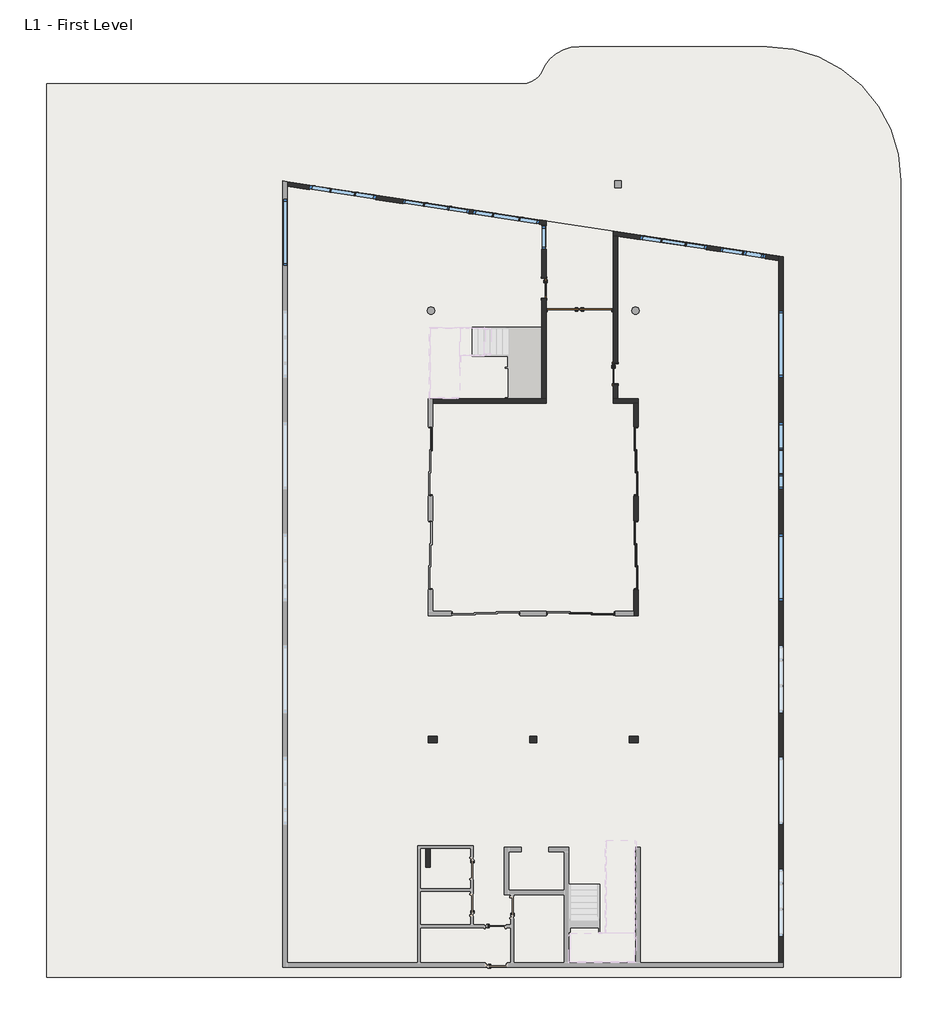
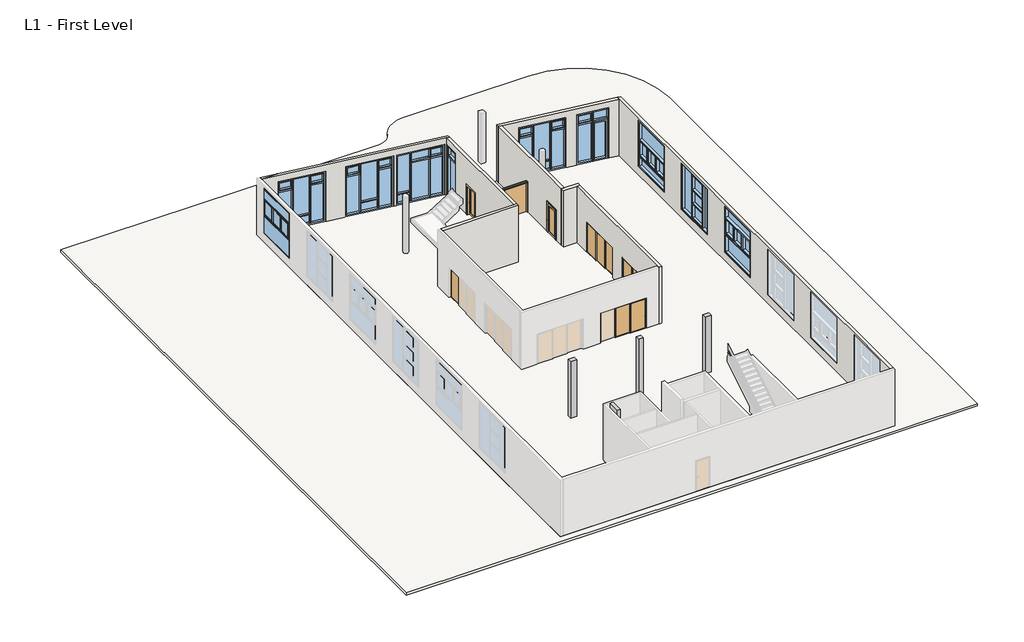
# One storey, part 2 of 4: 15 doors, 10 windows, 9 walls, 4 columns, 2 slabs.
"""IFC4 building model written with IfcOpenShell, lengths in millimetres."""

from ifc_helpers import new_model, si_unit, point, frame, frame_2d, origin, origin_with_axes, place, context, project, spatial, polyline, circle_curve, trimmed, segment, composite_curve, outline, extrude, faceted_brep, transform, mapped, element, save
from components import door_7ad24d90, door_23af0c9a, door_cf1101c9, door_0c16035c, door_c90a9d60, panel_full_glazing_aluminum_5881cc99, panel_full_glazing_aluminum_9a99f02d, window_frontal_door_front_window_7080e63b, window_frontal_vertical_lateral_windows_1aae0640, window_frontal_vertical_option2_front_window_b7f4d29d, window_frontal_vertical_option2_front_window_3d2c31a8, window_frontal_vertical_option3_lateral_windows_03f2e7b4, window_lateral_horizontal_lateral_windows_7aeb5992, window_lateral_horizontal_option2_lateral_windows_3115a414, window_lateral_vertical_lateral_windows_7704e6dc

model = new_model("IFC4")

# Units and contexts
model_context = context("Model", 3, world=origin())
ifc_project = project(units=[si_unit("LENGTHUNIT", "METRE", prefix="MILLI")], contexts=[model_context])

# Site, building, storey
site = spatial("IfcSite", under=ifc_project)
building = spatial("IfcBuilding", under=site)
storey = spatial("IfcBuildingStorey", under=building, Name="L1 - First Level", Elevation=152.4)

# Columns
placement = place(None, origin())
element("IfcColumn", 1, ObjectType="Concrete-Rectangular-Column : 12 x 12", at=placement, inside=storey, context=model_context, shape_type="SweptSolid", body=[
    extrude(outline(polyline([(14630.4, 10972.6001433), (14630.4, 10667.8001433), (14325.6, 10667.8001433), (14325.6, 10972.6001433), (14630.4, 10972.6001433)])), frame((0.0, 0.0, 152.4), z_axis=(0.0, 0.0, 1.0), x_axis=(1.0, 0.0, 0.0)), (0.0, 0.0, 1.0), 4064.0),
])
element("IfcColumn", 2, ObjectType="Concrete-Rectangular-Column : 12 x 16", at=placement, inside=storey, context=model_context, shape_type="SweptSolid", body=[
    extrude(outline(polyline([(9702.5746315, 10972.8), (10108.9746315, 10972.8), (10108.9746315, 10668.0), (9702.5746315, 10668.0), (9702.5746315, 10972.8)])), frame((0.0, 0.0, 152.4), z_axis=(0.0, 0.0, 1.0), x_axis=(1.0, 0.0, 0.0)), (0.0, 0.0, 1.0), 4064.0),
])
element("IfcColumn", 3, ObjectType="Concrete-Rectangular-Column : 12 x 16", at=placement, inside=storey, context=model_context, shape_type="SweptSolid", body=[
    extrude(outline(polyline([(18846.7999999, 10972.8), (19253.1999999, 10972.8), (19253.1999999, 10668.0), (18846.7999999, 10668.0), (18846.7999999, 10972.8)])), frame((0.0, 0.0, 152.4), z_axis=(0.0, 0.0, 1.0), x_axis=(1.0, 0.0, 0.0)), (0.0, 0.0, 1.0), 4064.0),
])
element("IfcColumn", 4, ObjectType="Concrete-Rectangular-Column : 36 x 8", at=placement, inside=storey, context=model_context, shape_type="SweptSolid", body=[
    extrude(outline(polyline([(9601.1999999, 5919.4792863), (9804.3999999, 5919.4792863), (9804.3999999, 5005.0792863), (9601.1999999, 5005.0792863), (9601.1999999, 5919.4792863)])), frame((0.0, 0.0, 152.4), z_axis=(0.0, 0.0, 1.0), x_axis=(1.0, 0.0, 0.0)), (0.0, 0.0, 1.0), 4064.0),
])

# Doors
door_shape = door_7ad24d90(model_context)
element("IfcDoor", 5, ObjectType="BP_DOOR_SP_Sliding_AluminumFrame-MultiPanels : 120\" x 84\" - 3 Panels", at=placement, inside=storey, context=model_context, shape_type="MappedRepresentation", body=[
    mapped(door_shape, transform((19151.5999911, 23469.5998757, 152.4), x_axis=(0.0, -1.0, 0.0), y_axis=(1.0, 0.0, 0.0), z_axis=(0.0, 0.0, 1.0))),
])
element("IfcDoor", 6, ObjectType="BP_DOOR_SP_Sliding_AluminumFrame-MultiPanels : 120\" x 84\" - 3 Panels", at=placement, inside=storey, context=model_context, shape_type="MappedRepresentation", body=[
    mapped(door_shape, transform((19151.5999911, 19202.3998844, 152.4), x_axis=(0.0, -1.0, 0.0), y_axis=(1.0, 0.0, 0.0), z_axis=(0.0, 0.0, 1.0))),
])
door_2_shape = door_23af0c9a(model_context)
element("IfcDoor", 7, ObjectType="BP_DOOR_SP_Sliding_AluminumFrame-MultiPanels : 120\" x 84\" - 3 Panels", at=placement, inside=storey, context=model_context, shape_type="MappedRepresentation", body=[
    mapped(door_2_shape, transform((16636.9999911, 16560.7998844, 152.4), x_axis=(1.0, 0.0, 0.0), y_axis=(0.0, 1.0, 0.0), z_axis=(0.0, 0.0, 1.0))),
])
door_3_shape = door_cf1101c9(model_context)
element("IfcDoor", 8, ObjectType="BP_DOOR_SteelFrame-Double-OffsetPivot : 72\" x 84\" - Solid 2", at=placement, inside=storey, context=model_context, shape_type="MappedRepresentation", body=[
    mapped(door_3_shape, transform((16579.8499995, 30340.2998762, 152.4), x_axis=(1.0, 0.0, 0.0), y_axis=(0.0, 1.0, 0.0), z_axis=(0.0, 0.0, 1.0))),
])
door_4_shape = door_0c16035c(model_context)
element("IfcDoor", 9, ObjectType="BP_DOOR_WoodFrame-OffsetPivot : 36\" x 84\" - Glazing Full", at=placement, inside=storey, context=model_context, shape_type="MappedRepresentation", body=[
    mapped(door_4_shape, transform((14960.6000041, 31337.2498757, 152.4), x_axis=(0.0, -1.0, 0.0), y_axis=(1.0, 0.0, 0.0), z_axis=(0.0, 0.0, 1.0))),
])
door_5_shape = door_c90a9d60(model_context)
element("IfcDoor", 10, ObjectType="BP_DOOR_WoodFrame-OffsetPivot : 36\" x 84\" - Glazing Full", at=placement, inside=storey, context=model_context, shape_type="MappedRepresentation", body=[
    mapped(door_5_shape, transform((18211.7999995, 27451.0498757, 152.4), x_axis=(0.0, -1.0, 0.0), y_axis=(1.0, 0.0, 0.0), z_axis=(0.0, 0.0, 1.0))),
])
panel_full_glazing_aluminum_shape = panel_full_glazing_aluminum_5881cc99(model_context)
element("IfcDoor", 11, ObjectType="BP_DR_SP_Panel-Single-Glass : Panel - Full Glazing Aluminum", at=placement, inside=storey, context=model_context, shape_type="MappedRepresentation", body=[
    mapped(panel_full_glazing_aluminum_shape, transform((19100.7999911, 24468.6665424, 152.4), x_axis=(0.0, -1.0, 0.0), y_axis=(1.0, 0.0, 0.0), z_axis=(0.0, 0.0, 1.0))),
])
element("IfcDoor", 12, ObjectType="BP_DR_SP_Panel-Single-Glass : Panel - Full Glazing Aluminum", at=placement, inside=storey, context=model_context, shape_type="MappedRepresentation", body=[
    mapped(panel_full_glazing_aluminum_shape, transform((19151.5999911, 23469.5998757, 152.4), x_axis=(0.0, -1.0, 0.0), y_axis=(1.0, 0.0, 0.0), z_axis=(0.0, 0.0, 1.0))),
])
element("IfcDoor", 13, ObjectType="BP_DR_SP_Panel-Single-Glass : Panel - Full Glazing Aluminum", at=placement, inside=storey, context=model_context, shape_type="MappedRepresentation", body=[
    mapped(panel_full_glazing_aluminum_shape, transform((19202.3999911, 22470.533209, 152.4), x_axis=(0.0, -1.0, 0.0), y_axis=(1.0, 0.0, 0.0), z_axis=(0.0, 0.0, 1.0))),
])
element("IfcDoor", 14, ObjectType="BP_DR_SP_Panel-Single-Glass : Panel - Full Glazing Aluminum", at=placement, inside=storey, context=model_context, shape_type="MappedRepresentation", body=[
    mapped(panel_full_glazing_aluminum_shape, transform((19100.7999911, 20201.4665511, 152.4), x_axis=(0.0, -1.0, 0.0), y_axis=(1.0, 0.0, 0.0), z_axis=(0.0, 0.0, 1.0))),
])
element("IfcDoor", 15, ObjectType="BP_DR_SP_Panel-Single-Glass : Panel - Full Glazing Aluminum", at=placement, inside=storey, context=model_context, shape_type="MappedRepresentation", body=[
    mapped(panel_full_glazing_aluminum_shape, transform((19151.5999911, 19202.3998844, 152.4), x_axis=(0.0, -1.0, 0.0), y_axis=(1.0, 0.0, 0.0), z_axis=(0.0, 0.0, 1.0))),
])
element("IfcDoor", 16, ObjectType="BP_DR_SP_Panel-Single-Glass : Panel - Full Glazing Aluminum", at=placement, inside=storey, context=model_context, shape_type="MappedRepresentation", body=[
    mapped(panel_full_glazing_aluminum_shape, transform((19202.3999911, 18203.3332178, 152.4), x_axis=(0.0, -1.0, 0.0), y_axis=(1.0, 0.0, 0.0), z_axis=(0.0, 0.0, 1.0))),
])
panel_full_glazing_aluminum_2_shape = panel_full_glazing_aluminum_9a99f02d(model_context)
element("IfcDoor", 17, ObjectType="BP_DR_SP_Panel-Single-Glass : Panel - Full Glazing Aluminum", at=placement, inside=storey, context=model_context, shape_type="MappedRepresentation", body=[
    mapped(panel_full_glazing_aluminum_2_shape, transform((9855.2000088, 24468.6665424, 152.4), x_axis=(0.0, -1.0, 0.0), y_axis=(1.0, 0.0, 0.0), z_axis=(0.0, 0.0, 1.0))),
])
element("IfcDoor", 18, ObjectType="BP_DR_SP_Panel-Single-Glass : Panel - Full Glazing Aluminum", at=placement, inside=storey, context=model_context, shape_type="MappedRepresentation", body=[
    mapped(panel_full_glazing_aluminum_2_shape, transform((16636.9999911, 16560.7998844, 152.4), x_axis=(1.0, 0.0, 0.0), y_axis=(0.0, 1.0, 0.0), z_axis=(0.0, 0.0, 1.0))),
])
element("IfcDoor", 19, ObjectType="BP_DR_SP_Panel-Single-Glass : Panel - Full Glazing Aluminum", at=placement, inside=storey, context=model_context, shape_type="MappedRepresentation", body=[
    mapped(panel_full_glazing_aluminum_2_shape, transform((17636.0666578, 16509.9998844, 152.4), x_axis=(1.0, 0.0, 0.0), y_axis=(0.0, 1.0, 0.0), z_axis=(0.0, 0.0, 1.0))),
])

# Slabs
element("IfcSlab", 20, ObjectType="Floor 6\"", at=placement, inside=storey, context=model_context, shape_type="SweptSolid", body=[
    extrude(outline(polyline([(3098.8, 36220.3999999), (25857.2, 32765.9999999), (25857.2, 457.2), (3098.8, 457.2), (3098.8, 36220.3999999)])), origin_with_axes(), (0.0, 0.0, 1.0), 152.4),
])
element("IfcSlab", 21, ObjectType="Site 6\"", at=placement, inside=storey, context=model_context, shape_type="SweptSolid", body=[
    extrude(outline(composite_curve([segment(polyline([(-7652.8728973, 0.0), (-7652.8728973, 40651.8603754), (13987.9271027, 40651.8603754)]), True, "CONTINUOUS"), segment(trimmed(circle_curve(frame_2d((13987.9271027, 41685.8304707)), 1033.9700953), [point((13987.9271027, 40651.8603754))], [point((14871.0112112, 41148.0046483))], True, "CARTESIAN"), True, "CONTINUOUS"), segment(trimmed(circle_curve(frame_2d((16577.0766626, 40515.4877633)), 1819.5430564), [point((14871.0112112, 41148.0046483))], [point((16577.0766626, 42335.0308197))], False, "CARTESIAN"), True, "CONTINUOUS"), segment(polyline([(16577.0766626, 42335.0308197), (25107.3998255, 42335.0308197)]), True, "CONTINUOUS"), segment(trimmed(circle_curve(frame_2d((25107.3998255, 36239.0308197)), 6096.0), [point((25107.3998255, 42335.0308197))], [point((31203.3998255, 36239.0308197))], False, "CARTESIAN"), True, "CONTINUOUS"), segment(polyline([(31203.3998255, 36239.0308197), (31203.3998255, 0.0), (-7652.8728973, 0.0)]), True, "CONTINUOUS")], self_intersect=False), holes=[polyline([(3098.8, 36220.3999999), (3098.8, 457.2), (25857.2, 457.2), (25857.2, 32765.9999999), (3098.8, 36220.3999999)])]), origin_with_axes(), (0.0, 0.0, 1.0), 152.4),
])

# Walls
element("IfcWall", 22, ObjectType="Project Wall", at=placement, inside=storey, context=model_context, shape_type="Brep", body=[
    faceted_brep([(25857.2, 660.4, 152.4), (25857.2, 32765.9999999, 152.4), (25857.2, 32765.9999999, 3784.6), (25857.2, 32765.9999999, 4216.4), (25857.2, 660.4, 4216.4), (25857.2, 30327.6, 4064.0), (25857.2, 30327.6, 762.0), (25857.2, 27279.6, 762.0), (25857.2, 27279.6, 4064.0), (25857.2, 20167.6, 4064.0), (25857.2, 20167.6, 762.0), (25857.2, 17119.6, 762.0), (25857.2, 17119.6, 4064.0), (25857.2, 15087.6, 4064.0), (25857.2, 15087.6, 762.0), (25857.2, 12039.6, 762.0), (25857.2, 12039.6, 4064.0), (25857.2, 10007.6, 4064.0), (25857.2, 10007.6, 762.0), (25857.2, 6959.6, 762.0), (25857.2, 6959.6, 4064.0), (25857.2, 4927.6, 4064.0), (25857.2, 4927.6, 762.0), (25857.2, 1879.6, 762.0), (25857.2, 1879.6, 4064.0), (25857.2, 22199.6, 762.0), (25857.2, 22199.6, 4064.0), (25857.2, 25247.6, 4064.0), (25857.2, 25247.6, 762.0), (25654.0, 32796.8428571, 152.4), (25654.0, 32591.3154335, 152.4), (25654.0, 660.4, 152.4), (25654.0, 660.4, 4216.4), (25654.0, 32591.3154335, 4216.4), (25654.0, 32796.8428571, 4216.4), (25654.0, 32796.8428571, 3784.6), (25654.0, 30327.6, 762.0), (25654.0, 30327.6, 4064.0), (25654.0, 27279.6, 4064.0), (25654.0, 27279.6, 762.0), (25654.0, 20167.6, 762.0), (25654.0, 20167.6, 4064.0), (25654.0, 17119.6, 4064.0), (25654.0, 17119.6, 762.0), (25654.0, 15087.6, 762.0), (25654.0, 15087.6, 4064.0), (25654.0, 12039.6, 4064.0), (25654.0, 12039.6, 762.0), (25654.0, 10007.6, 762.0), (25654.0, 10007.6, 4064.0), (25654.0, 6959.6, 4064.0), (25654.0, 6959.6, 762.0), (25654.0, 4927.6, 762.0), (25654.0, 4927.6, 4064.0), (25654.0, 1879.6, 4064.0), (25654.0, 1879.6, 762.0), (25654.0, 22199.6, 4064.0), (25654.0, 22199.6, 762.0), (25654.0, 25247.6, 762.0), (25654.0, 25247.6, 4064.0)], [[[0, 1, 2, 3, 4], [5, 6, 7, 8], [9, 10, 11, 12], [13, 14, 15, 16], [17, 18, 19, 20], [21, 22, 23, 24], [25, 26, 27, 28]], [[29, 30, 31, 32, 33, 34, 35], [36, 37, 38, 39], [40, 41, 42, 43], [44, 45, 46, 47], [48, 49, 50, 51], [52, 53, 54, 55], [56, 57, 58, 59]], [[1, 0, 31, 30, 29]], [[4, 3, 34, 33, 32]], [[0, 4, 32, 31]], [[1, 29, 35, 34, 3, 2]], [[5, 37, 36, 6]], [[6, 36, 39, 7]], [[7, 39, 38, 8]], [[40, 10, 9, 41]], [[10, 40, 43, 11]], [[11, 43, 42, 12]], [[44, 14, 13, 45]], [[14, 44, 47, 15]], [[15, 47, 46, 16]], [[48, 18, 17, 49]], [[18, 48, 51, 19]], [[19, 51, 50, 20]], [[52, 22, 21, 53]], [[22, 52, 55, 23]], [[23, 55, 54, 24]], [[25, 57, 56, 26]], [[57, 25, 28, 58]], [[58, 28, 27, 59]], [[53, 21, 24, 54]], [[49, 17, 20, 50]], [[45, 13, 16, 46]], [[41, 9, 12, 42]], [[26, 56, 59, 27]], [[37, 5, 8, 38]]]),
])
element("IfcWall", 23, ObjectType="Project Wall", at=placement, inside=storey, context=model_context, shape_type="Brep", body=[
    faceted_brep([(25654.0, 32796.8428571, 4216.4), (25654.0, 32796.8428571, 152.4), (25070.816951, 32885.3617127, 152.4), (25070.816951, 32885.3617127, 3784.6), (23011.6028925, 33197.9209895, 3784.6), (23011.6028925, 33197.9209895, 152.4), (22383.7937283, 33293.2134519, 152.4), (22383.7937283, 33293.2134519, 3784.6), (19370.3097404, 33750.6172715, 3784.6), (19370.3097404, 33750.6172715, 152.4), (18110.1999995, 33941.8839286, 152.4), (18110.1999995, 33941.8839286, 4216.4), (25654.0, 32591.3154335, 152.4), (25654.0, 32591.3154335, 4216.4), (18313.3999995, 33705.5136479, 4216.4), (18110.1999995, 33736.356505, 4216.4), (18110.1999995, 33736.356505, 152.4), (18313.3999995, 33705.5136479, 152.4), (19339.8161524, 33549.718339, 152.4), (19339.8161524, 33549.718339, 3784.6), (22353.3001404, 33092.3145194, 3784.6), (22353.3001404, 33092.3145194, 152.4), (22981.1093045, 32997.0220569, 152.4), (22981.1093045, 32997.0220569, 3784.6), (25040.323363, 32684.4627802, 3784.6), (25040.323363, 32684.4627802, 152.4)], [[[0, 1, 2, 3, 4, 5, 6, 7, 8, 9, 10, 11]], [[12, 13, 14, 15, 16, 17, 18, 19, 20, 21, 22, 23, 24, 25]], [[1, 12, 25, 2]], [[16, 10, 9, 18, 17]], [[21, 6, 5, 22]], [[12, 1, 0, 13]], [[0, 11, 15, 14, 13]], [[11, 10, 16, 15]], [[21, 20, 7, 6]], [[19, 18, 9, 8]], [[20, 19, 8, 7]], [[24, 3, 2, 25]], [[4, 23, 22, 5]], [[3, 24, 23, 4]]]),
])
element("IfcWall", 24, ObjectType="Project Wall", at=placement, inside=storey, context=model_context, shape_type="Brep", body=[
    faceted_brep([(18110.1999995, 26111.1998757, 152.4), (19050.0, 26111.1998757, 152.4), (19253.2, 26111.1998757, 152.4), (19253.2, 26111.1998757, 4216.4), (19050.0, 26111.1998757, 4216.4), (18110.1999995, 26111.1998757, 4216.4), (18110.1999995, 26314.3998757, 152.4), (18110.1999995, 26314.3998757, 4216.4), (18313.3999995, 26314.3998757, 4216.4), (19253.2, 26314.3998757, 4216.4), (19253.2, 26314.3998757, 152.4), (18313.3999995, 26314.3998757, 152.4)], [[[0, 1, 2, 3, 4, 5]], [[6, 7, 8, 9, 10, 11]], [[2, 1, 0, 6, 11, 10]], [[5, 4, 3, 9, 8, 7]], [[3, 2, 10, 9]], [[0, 5, 7, 6]]]),
])
element("IfcWall", 25, ObjectType="Project Wall", at=placement, inside=storey, context=model_context, shape_type="Brep", body=[
    faceted_brep([(19050.0, 16459.1998844, 4216.4), (19050.0, 16662.3998844, 4216.4), (19050.0, 26111.1998757, 4216.4), (19050.0, 26111.1998757, 152.4), (19050.0, 25044.3998757, 152.4), (19050.0, 25044.3998757, 2336.8), (19050.0, 21894.7998757, 2336.8), (19050.0, 21894.7998757, 152.4), (19050.0, 20777.1998844, 152.4), (19050.0, 20777.1998844, 2336.8), (19050.0, 17627.5998844, 2336.8), (19050.0, 17627.5998844, 152.4), (19050.0, 16662.3998844, 152.4), (19050.0, 16459.1998844, 152.4), (19253.2, 26111.1998757, 4216.4), (19253.2, 16459.1998844, 4216.4), (19253.2, 16459.1998844, 152.4), (19253.2, 17627.5998844, 152.4), (19253.2, 17627.5998844, 2336.8), (19253.2, 20777.1998844, 2336.8), (19253.2, 20777.1998844, 152.4), (19253.2, 21894.7998757, 152.4), (19253.2, 21894.7998757, 2336.8), (19253.2, 25044.3998757, 2336.8), (19253.2, 25044.3998757, 152.4), (19253.2, 26111.1998757, 152.4)], [[[0, 1, 2, 3, 4, 5, 6, 7, 8, 9, 10, 11, 12, 13]], [[14, 15, 16, 17, 18, 19, 20, 21, 22, 23, 24, 25]], [[3, 25, 24, 4]], [[16, 13, 12, 11, 17]], [[20, 8, 7, 21]], [[2, 1, 0, 15, 14]], [[3, 2, 14, 25]], [[0, 13, 16, 15]], [[10, 18, 17, 11]], [[18, 10, 9, 19]], [[19, 9, 8, 20]], [[6, 22, 21, 7]], [[22, 6, 5, 23]], [[23, 5, 4, 24]]]),
])
element("IfcWall", 26, ObjectType="Project Wall", at=placement, inside=storey, context=model_context, shape_type="Brep", body=[
    faceted_brep([(9906.0000088, 26111.1998757, 152.4), (15062.2000041, 26111.1998757, 152.4), (15062.2000041, 26111.1998757, 4216.4), (9906.0000088, 26111.1998757, 4216.4), (9906.0000088, 26314.3998757, 152.4), (9906.0000088, 26314.3998757, 4216.4), (14859.0000041, 26314.3998757, 4216.4), (15062.2000041, 26314.3998757, 4216.4), (15062.2000041, 26314.3998757, 152.4), (14859.0000041, 26314.3998757, 152.4)], [[[0, 1, 2, 3]], [[4, 5, 6, 7, 8, 9]], [[1, 0, 4, 9, 8]], [[3, 2, 7, 6, 5]], [[0, 3, 5, 4]], [[2, 1, 8, 7]]]),
])
element("IfcWall", 27, ObjectType="Project Wall", at=placement, inside=storey, context=model_context, shape_type="Brep", body=[
    faceted_brep([(11761.3794328, 34905.5441932, 152.4), (11585.5928669, 34932.2260826, 152.4), (11585.5928669, 34932.2260826, 3784.6), (8572.1088789, 35389.6299023, 3784.6), (8572.1088789, 35389.6299023, 152.4), (7341.6029171, 35576.4031286, 152.4), (7341.6029171, 35576.4031286, 3784.6), (4437.5294117, 36017.2, 3784.6), (4328.1189292, 36033.8069482, 3784.6), (4328.1189292, 36033.8069482, 152.4), (3302.0, 36189.5571428, 152.4), (3302.0, 36189.5571428, 4216.4), (4437.5294118, 36017.1999999, 4216.4), (15062.2000041, 34404.526785, 4216.4), (15062.2000041, 34404.526785, 152.4), (14774.8634208, 34448.1403736, 152.4), (14774.8634208, 34448.1403736, 3784.6), (11761.3794328, 34905.5441932, 3784.6), (11555.0992789, 34731.3271501, 3784.6), (11555.0992789, 34731.3271501, 152.4), (11730.8858449, 34704.6452606, 152.4), (11730.8858449, 34704.6452606, 3784.6), (14744.3698329, 34247.241441, 3784.6), (14744.3698329, 34247.241441, 152.4), (14859.0000041, 34229.8422186, 152.4), (15062.2000041, 34198.9993615, 152.4), (15062.2000041, 34198.9993615, 4216.4), (14859.0000041, 34229.8422186, 4216.4), (3302.0, 35984.0297192, 4216.4), (3302.0, 35984.0297192, 152.4), (4297.6253412, 35832.9080157, 152.4), (4297.6253412, 35832.9080157, 3784.6), (7311.1093292, 35375.5041961, 3784.6), (7311.1093292, 35375.5041961, 152.4), (8541.6152909, 35188.7309697, 152.4), (8541.6152909, 35188.7309697, 3784.6), (3302.0, 36017.1999999, 4216.4)], [[[0, 1, 2, 3, 4, 5, 6, 7, 8, 9, 10, 11, 12, 13, 14, 15, 16, 17]], [[18, 19, 20, 21, 22, 23, 24, 25, 26, 27, 28, 29, 30, 31, 32, 33, 34, 35]], [[14, 25, 24, 23, 15]], [[30, 29, 10, 9]], [[34, 33, 5, 4]], [[20, 19, 1, 0]], [[10, 29, 28, 36, 11]], [[12, 11, 36]], [[13, 12, 36, 28, 27, 26]], [[14, 13, 26, 25]], [[17, 21, 20, 0]], [[22, 16, 15, 23]], [[21, 17, 16, 22]], [[9, 8, 31, 30]], [[6, 5, 33, 32]], [[8, 7, 6, 32, 31]], [[4, 3, 35, 34]], [[2, 1, 19, 18]], [[3, 2, 18, 35]]]),
])
element("IfcWall", 28, ObjectType="Project Wall", at=placement, inside=storey, context=model_context, shape_type="Brep", body=[
    faceted_brep([(18313.3999995, 33705.5136479, 152.4), (18313.3999995, 33705.5136479, 4216.4), (18313.3999995, 26314.3998757, 4216.4), (18313.3999995, 26314.3998757, 152.4), (18313.3999995, 26968.4498757, 152.4), (18313.3999995, 26968.4498757, 2311.4), (18313.3999995, 27933.6498757, 2311.4), (18313.3999995, 27933.6498757, 152.4), (18110.1999995, 33736.356505, 4216.4), (18110.1999995, 33736.356505, 152.4), (18110.1999995, 30403.7998762, 152.4), (18110.1999995, 30276.7998762, 152.4), (18110.1999995, 27933.6498757, 152.4), (18110.1999995, 27933.6498757, 2311.4), (18110.1999995, 26968.4498757, 2311.4), (18110.1999995, 26968.4498757, 152.4), (18110.1999995, 26314.3998757, 152.4), (18110.1999995, 26314.3998757, 4216.4)], [[[0, 1, 2, 3, 4, 5, 6, 7]], [[8, 9, 10, 11, 12, 13, 14, 15, 16, 17]], [[9, 0, 7, 12, 11, 10]], [[3, 16, 15, 4]], [[1, 0, 9, 8]], [[3, 2, 17, 16]], [[14, 5, 4, 15]], [[5, 14, 13, 6]], [[6, 13, 12, 7]], [[2, 1, 8, 17]]]),
])
element("IfcWall", 29, ObjectType="Project Wall", at=placement, inside=storey, context=model_context, shape_type="Brep", body=[
    faceted_brep([(15062.2000041, 34198.9993615, 152.4), (15062.2000041, 34198.9993615, 4216.4), (15062.2000041, 26314.3998757, 4216.4), (15062.2000041, 26314.3998757, 152.4), (15062.2000041, 30276.7998762, 152.4), (15062.2000041, 30403.7998762, 152.4), (15062.2000041, 30854.6498757, 152.4), (15062.2000041, 30854.6498757, 2311.4), (15062.2000041, 31819.8498757, 2311.4), (15062.2000041, 31819.8498757, 152.4), (15062.2000041, 33115.2498757, 152.4), (15062.2000041, 33115.2498757, 3784.6), (15062.2000041, 34173.9218757, 3784.6), (15062.2000041, 34173.9218757, 152.4), (14859.0000041, 34229.8422186, 4216.4), (14859.0000041, 34229.8422186, 152.4), (14859.0000041, 34173.9218757, 152.4), (14859.0000041, 34173.9218757, 3784.6), (14859.0000041, 33115.2498757, 3784.6), (14859.0000041, 33115.2498757, 152.4), (14859.0000041, 31819.8498757, 152.4), (14859.0000041, 31819.8498757, 2311.4), (14859.0000041, 30854.6498757, 2311.4), (14859.0000041, 30854.6498757, 152.4), (14859.0000041, 26314.3998757, 152.4), (14859.0000041, 26314.3998757, 4216.4)], [[[0, 1, 2, 3, 4, 5, 6, 7, 8, 9, 10, 11, 12, 13]], [[14, 15, 16, 17, 18, 19, 20, 21, 22, 23, 24, 25]], [[15, 0, 13, 16]], [[3, 24, 23, 6, 5, 4]], [[9, 20, 19, 10]], [[1, 0, 15, 14]], [[3, 2, 25, 24]], [[22, 7, 6, 23]], [[7, 22, 21, 8]], [[8, 21, 20, 9]], [[2, 1, 14, 25]], [[18, 11, 10, 19]], [[12, 17, 16, 13]], [[11, 18, 17, 12]]]),
])
element("IfcWall", 30, ObjectType="Project Wall 5\"", at=placement, inside=storey, context=model_context, shape_type="SweptSolid", body=[
    extrude(outline(polyline([(2334.8, 18110.1999995), (2334.8, 15062.2000041), (152.4, 15062.2000041), (152.4, 15093.9499995), (2298.7, 15093.9499995), (2298.7, 18065.7499995), (152.4, 18065.7499995), (152.4, 18110.1999995), (2334.8, 18110.1999995)])), frame((0.0, 30276.7998762, 0.0), z_axis=(0.0, 1.0, 0.0), x_axis=(0.0, 0.0, 1.0)), (0.0, 0.0, 1.0), 127.0),
])

# Windows
window_frontal_door_front_window_shape = window_frontal_door_front_window_7080e63b(model_context)
element("IfcWindow", 31, ObjectType="Window_Frontal_Door : Front Window", at=placement, inside=storey, context=model_context, shape_type="MappedRepresentation", body=[
    mapped(window_frontal_door_front_window_shape, transform((24025.9631277, 32941.1918848, -762.0), x_axis=(0.9886758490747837, -0.1500668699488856, 0.0), y_axis=(0.1500668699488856, 0.9886758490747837, 0.0), z_axis=(0.0, 0.0, 1.0))),
])
window_frontal_vertical_lateral_windows_shape = window_frontal_vertical_lateral_windows_1aae0640(model_context)
element("IfcWindow", 32, ObjectType="Window_Frontal_Vertical : Lateral Windows", at=placement, inside=storey, context=model_context, shape_type="MappedRepresentation", body=[
    mapped(window_frontal_vertical_lateral_windows_shape, transform((13252.8746329, 34576.3928171, -762.0), x_axis=(-0.9886758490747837, 0.1500668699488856, 0.0), y_axis=(-0.1500668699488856, -0.9886758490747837, 0.0), z_axis=(0.0, 0.0, 1.0))),
])
window_frontal_vertical_option2_front_window_shape = window_frontal_vertical_option2_front_window_b7f4d29d(model_context)
element("IfcWindow", 33, ObjectType="Window_Frontal_Vertical_Option2 : Front Window", at=placement, inside=storey, context=model_context, shape_type="MappedRepresentation", body=[
    mapped(window_frontal_vertical_option2_front_window_shape, transform((20861.8049404, 33421.4658954, -762.0), x_axis=(0.9886758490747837, -0.1500668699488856, 0.0), y_axis=(0.1500668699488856, 0.9886758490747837, 0.0), z_axis=(0.0, 0.0, 1.0))),
])
window_frontal_vertical_option2_front_window_2_shape = window_frontal_vertical_option2_front_window_3d2c31a8(model_context)
element("IfcWindow", 34, ObjectType="Window_Frontal_Vertical_Option2 : Front Window", at=placement, inside=storey, context=model_context, shape_type="MappedRepresentation", body=[
    mapped(window_frontal_vertical_option2_front_window_2_shape, transform((5819.6141292, 35704.6555721, -762.0), x_axis=(-0.9886758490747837, 0.1500668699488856, 0.0), y_axis=(-0.1500668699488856, -0.9886758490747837, 0.0), z_axis=(0.0, 0.0, 1.0))),
])
element("IfcWindow", 35, ObjectType="Window_Frontal_Vertical_Option2 : Front Window", at=placement, inside=storey, context=model_context, shape_type="MappedRepresentation", body=[
    mapped(window_frontal_vertical_option2_front_window_2_shape, transform((10063.6040789, 35060.4785262, -762.0), x_axis=(-0.9886758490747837, 0.1500668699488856, 0.0), y_axis=(-0.1500668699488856, -0.9886758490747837, 0.0), z_axis=(0.0, 0.0, 1.0))),
])
window_frontal_vertical_option3_lateral_windows_shape = window_frontal_vertical_option3_lateral_windows_03f2e7b4(model_context)
element("IfcWindow", 36, ObjectType="Window_Frontal_Vertical_Option3 : Lateral Windows", at=placement, inside=storey, context=model_context, shape_type="MappedRepresentation", body=[
    mapped(window_frontal_vertical_option3_lateral_windows_shape, transform((14960.6000041, 33644.5858757, -762.0), x_axis=(0.0, -1.0, 0.0), y_axis=(1.0, 0.0, 0.0), z_axis=(0.0, 0.0, 1.0))),
])
window_lateral_horizontal_lateral_windows_shape = window_lateral_horizontal_lateral_windows_7aeb5992(model_context)
element("IfcWindow", 37, ObjectType="Window_Lateral_Horizontal : Lateral Windows", at=placement, inside=storey, context=model_context, shape_type="MappedRepresentation", body=[
    mapped(window_lateral_horizontal_lateral_windows_shape, transform((3200.4, 33883.6, -152.4), x_axis=(0.0, -1.0, 0.0), y_axis=(1.0, 0.0, 0.0), z_axis=(0.0, 0.0, 1.0))),
])
element("IfcWindow", 38, ObjectType="Window_Lateral_Horizontal : Lateral Windows", at=placement, inside=storey, context=model_context, shape_type="MappedRepresentation", body=[
    mapped(window_lateral_horizontal_lateral_windows_shape, transform((25755.6, 18643.6, -152.4), x_axis=(0.0, 1.0, 0.0), y_axis=(-1.0, 0.0, 0.0), z_axis=(0.0, 0.0, 1.0))),
])
window_lateral_horizontal_option2_lateral_windows_shape = window_lateral_horizontal_option2_lateral_windows_3115a414(model_context)
element("IfcWindow", 39, ObjectType="Window_Lateral_Horizontal_Option2 : Lateral Windows", at=placement, inside=storey, context=model_context, shape_type="MappedRepresentation", body=[
    mapped(window_lateral_horizontal_option2_lateral_windows_shape, transform((25755.6, 28803.6, -152.4), x_axis=(0.0, 1.0, 0.0), y_axis=(-1.0, 0.0, 0.0), z_axis=(0.0, 0.0, 1.0))),
])
window_lateral_vertical_lateral_windows_shape = window_lateral_vertical_lateral_windows_7704e6dc(model_context)
element("IfcWindow", 40, ObjectType="Window_Lateral_Vertical : Lateral Windows", at=placement, inside=storey, context=model_context, shape_type="MappedRepresentation", body=[
    mapped(window_lateral_vertical_lateral_windows_shape, transform((25755.6, 23723.6, -152.4), x_axis=(0.0, -1.0, 0.0), y_axis=(1.0, 0.0, 0.0), z_axis=(0.0, 0.0, 1.0))),
])

save(model, "model.ifc")
